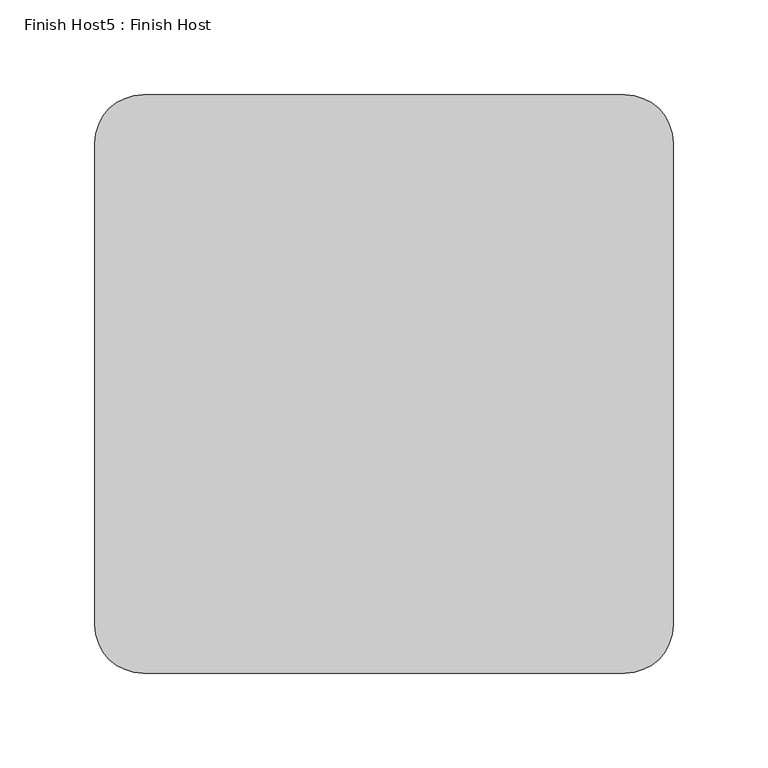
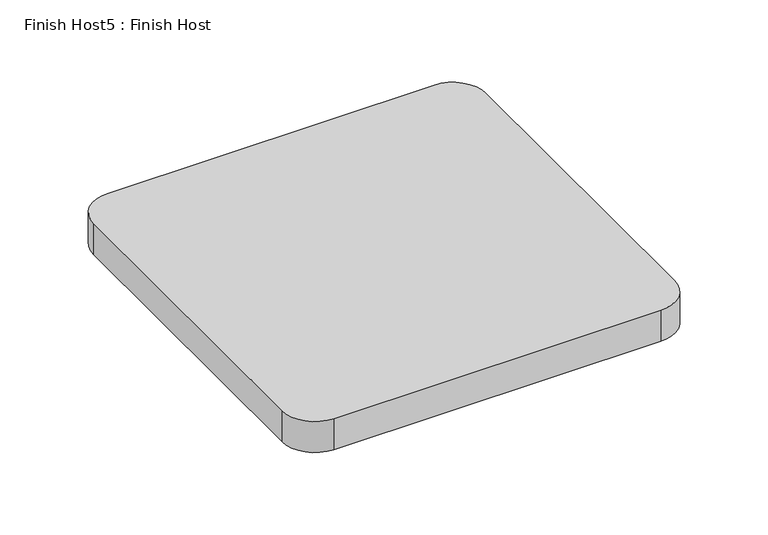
"""IFC4 building model written with IfcOpenShell, lengths in millimetres: proxy geometry, Finish Host5 : Finish Host."""

from ifc_helpers import new_model, si_unit, point, frame_2d, origin, origin_with_axes, place, context, project, spatial, polyline, circle_curve, trimmed, segment, composite_curve, outline, extrude, source, transform, mapped, element, save


def finish_host5_finish_host_d23c74cd(model_context):
    return source(origin(), model_context, "Body", "SweptSolid", [
        extrude(outline(composite_curve([segment(polyline([(3628.5649374, 3242.5667263), (3628.5649374, 3496.5667263)]), True, "CONTINUOUS"), segment(trimmed(circle_curve(frame_2d((3653.9649374, 3496.5667263)), 25.4), [point((3628.5649374, 3496.5667263))], [point((3653.9649374, 3521.9667263))], False, "CARTESIAN"), True, "CONTINUOUS"), segment(polyline([(3653.9649374, 3521.9667263), (3907.9649374, 3521.9667263)]), True, "CONTINUOUS"), segment(trimmed(circle_curve(frame_2d((3907.9649374, 3496.5667263)), 25.4), [point((3907.9649374, 3521.9667263))], [point((3933.3649374, 3496.5667263))], False, "CARTESIAN"), True, "CONTINUOUS"), segment(polyline([(3933.3649374, 3496.5667263), (3933.3649374, 3242.5667263)]), True, "CONTINUOUS"), segment(trimmed(circle_curve(frame_2d((3907.9649374, 3242.5667263)), 25.4), [point((3933.3649374, 3242.5667263))], [point((3907.9649374, 3217.1667263))], False, "CARTESIAN"), True, "CONTINUOUS"), segment(polyline([(3907.9649374, 3217.1667263), (3653.9649374, 3217.1667263)]), True, "CONTINUOUS"), segment(trimmed(circle_curve(frame_2d((3653.9649374, 3242.5667263)), 25.4), [point((3653.9649374, 3217.1667263))], [point((3628.5649374, 3242.5667263))], False, "CARTESIAN"), True, "CONTINUOUS")], self_intersect=False)), origin_with_axes(), (0.0, 0.0, 1.0), 25.4),
    ])


if __name__ == "__main__":
    model = new_model("IFC4")
    model_context = context("Model", 3, world=origin())
    ifc_project = project(units=[si_unit("LENGTHUNIT", "METRE", prefix="MILLI")], contexts=[model_context])
    site = spatial("IfcSite", under=ifc_project)
    building = spatial("IfcBuilding", under=site)
    placement = place(None, origin())
    finish_host5_finish_host_shape = finish_host5_finish_host_d23c74cd(model_context)
    element("IfcBuildingElementProxy", 1, Name="Finish Host5 : Finish Host", ObjectType="Finish Host5 : Finish Host", at=placement, inside=building, context=model_context, shape_type="MappedRepresentation", body=[
        mapped(finish_host5_finish_host_shape, transform((0.0, 0.0, 0.0), x_axis=(1.0, 0.0, 0.0), y_axis=(0.0, 1.0, 0.0), z_axis=(0.0, 0.0, 1.0))),
    ])
    save(model, "model.ifc")
